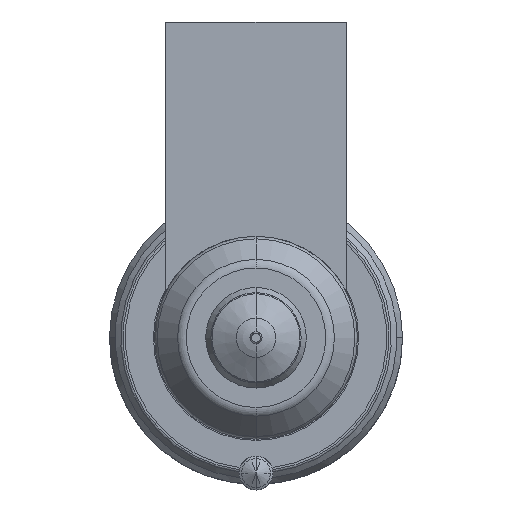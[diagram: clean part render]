
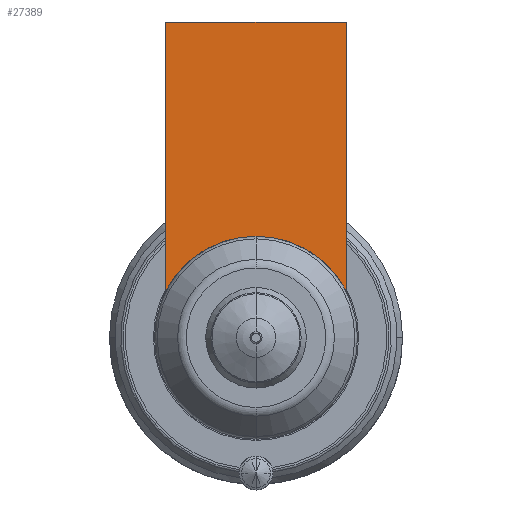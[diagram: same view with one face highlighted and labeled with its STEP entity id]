
A CAD part, front view. The second image highlights one B-rep face of the part: STEP entity #27389.
In plain terms, the highlighted planar face has unit normal (0, -1, 0).
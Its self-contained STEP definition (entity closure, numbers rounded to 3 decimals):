
#26498=DIRECTION('',(1.,0.,0.));
#26499=VECTOR('',#26498,16.);
#26500=CARTESIAN_POINT('',(-8.,-54.,28.));
#26501=LINE('',#26500,#26499);
#26506=CARTESIAN_POINT('',(0.,-54.,0.));
#26507=DIRECTION('',(0.,-1.,0.));
#26508=DIRECTION('',(0.889,0.,0.458));
#26509=AXIS2_PLACEMENT_3D('',#26506,#26507,#26508);
#26514=CARTESIAN_POINT('',(0.,-54.,0.));
#26515=DIRECTION('',(0.,-1.,0.));
#26516=DIRECTION('',(0.,0.,1.));
#26517=AXIS2_PLACEMENT_3D('',#26514,#26515,#26516);
#26543=DIRECTION('',(0.,0.,-1.));
#26544=VECTOR('',#26543,23.877);
#26545=CARTESIAN_POINT('',(-8.,-54.,28.));
#26546=LINE('',#26545,#26544);
#27233=DIRECTION('',(0.,0.,-1.));
#27234=VECTOR('',#27233,23.877);
#27235=CARTESIAN_POINT('',(8.,-54.,28.));
#27236=LINE('',#27235,#27234);
#27286=CARTESIAN_POINT('',(-8.,-54.,28.));
#27287=VERTEX_POINT('',#27286);
#27292=CARTESIAN_POINT('',(8.,-54.,28.));
#27293=VERTEX_POINT('',#27292);
#27296=CARTESIAN_POINT('',(-8.,-54.,4.123));
#27297=VERTEX_POINT('',#27296);
#27300=CARTESIAN_POINT('',(8.,-54.,4.123));
#27301=VERTEX_POINT('',#27300);
#27370=CARTESIAN_POINT('',(0.,-54.,9.));
#27371=VERTEX_POINT('',#27370);
#27372=CARTESIAN_POINT('',(0.,-54.,9.));
#27373=DIRECTION('',(0.,1.,0.));
#27374=DIRECTION('',(0.,0.,-1.));
#27375=AXIS2_PLACEMENT_3D('',#27372,#27373,#27374);
#27376=PLANE('',#27375);
#27378=ORIENTED_EDGE('',*,*,#27377,.F.);
#27380=ORIENTED_EDGE('',*,*,#27379,.T.);
#27382=ORIENTED_EDGE('',*,*,#27381,.T.);
#27384=ORIENTED_EDGE('',*,*,#27383,.T.);
#27386=ORIENTED_EDGE('',*,*,#27385,.T.);
#27387=EDGE_LOOP('',(#27378,#27380,#27382,#27384,#27386));
#27388=FACE_OUTER_BOUND('',#27387,.F.);
#27389=ADVANCED_FACE('',(#27388),#27376,.F.);
#26510=CIRCLE('',#26509,9.);
#26518=CIRCLE('',#26517,9.);
#27377=EDGE_CURVE('',#27287,#27297,#26546,.T.);
#27379=EDGE_CURVE('',#27287,#27293,#26501,.T.);
#27381=EDGE_CURVE('',#27293,#27301,#27236,.T.);
#27383=EDGE_CURVE('',#27301,#27371,#26510,.T.);
#27385=EDGE_CURVE('',#27371,#27297,#26518,.T.);
